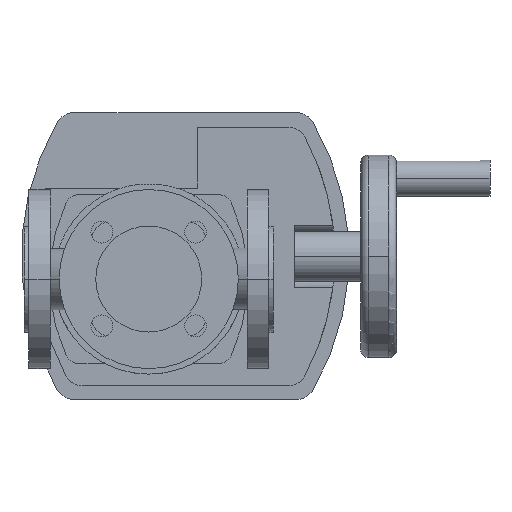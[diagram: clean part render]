
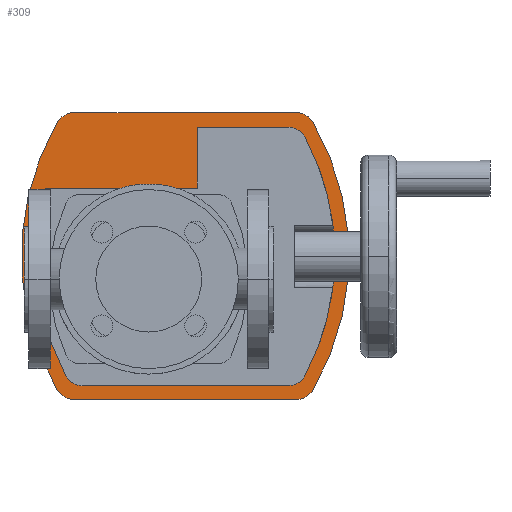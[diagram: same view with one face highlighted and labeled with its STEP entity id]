
A CAD part, front view. The second image highlights one B-rep face of the part: STEP entity #309.
In plain terms, the highlighted planar face has unit normal (0, -1, 0).
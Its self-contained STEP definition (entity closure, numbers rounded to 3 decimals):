
#309 = ADVANCED_FACE( '', ( #782, #783 ), #784, .F. );
#782 = FACE_OUTER_BOUND( '', #1310, .T. );
#783 = FACE_BOUND( '', #1311, .T. );
#784 = PLANE( '', #1312 );
#1310 = EDGE_LOOP( '', ( #2905, #2906, #2907, #2908, #2909, #2910, #2911, #2912 ) );
#1311 = EDGE_LOOP( '', ( #2913, #2914, #2915, #2916, #2917, #2918, #2919, #2920, #2921 ) );
#1312 = AXIS2_PLACEMENT_3D( '', #2922, #2923, #2924 );
#2905 = ORIENTED_EDGE( '', *, *, #3801, .F. );
#2906 = ORIENTED_EDGE( '', *, *, #3802, .F. );
#2907 = ORIENTED_EDGE( '', *, *, #3803, .F. );
#2908 = ORIENTED_EDGE( '', *, *, #3804, .F. );
#2909 = ORIENTED_EDGE( '', *, *, #3805, .F. );
#2910 = ORIENTED_EDGE( '', *, *, #3806, .F. );
#2911 = ORIENTED_EDGE( '', *, *, #3807, .F. );
#2912 = ORIENTED_EDGE( '', *, *, #3808, .F. );
#2913 = ORIENTED_EDGE( '', *, *, #3809, .T. );
#2914 = ORIENTED_EDGE( '', *, *, #3810, .T. );
#2915 = ORIENTED_EDGE( '', *, *, #3811, .F. );
#2916 = ORIENTED_EDGE( '', *, *, #3812, .F. );
#2917 = ORIENTED_EDGE( '', *, *, #3813, .F. );
#2918 = ORIENTED_EDGE( '', *, *, #3814, .F. );
#2919 = ORIENTED_EDGE( '', *, *, #3815, .F. );
#2920 = ORIENTED_EDGE( '', *, *, #3816, .F. );
#2921 = ORIENTED_EDGE( '', *, *, #3817, .F. );
#2922 = CARTESIAN_POINT( '', ( 80., 488.5, 0. ) );
#2923 = DIRECTION( '', ( 0., 1., 0. ) );
#2924 = DIRECTION( '', ( 0., 0., 1. ) );
#3801 = EDGE_CURVE( '', #4725, #4726, #4727, .T. );
#3802 = EDGE_CURVE( '', #4728, #4725, #4729, .T. );
#3803 = EDGE_CURVE( '', #4730, #4728, #4731, .T. );
#3804 = EDGE_CURVE( '', #4732, #4730, #4733, .T. );
#3805 = EDGE_CURVE( '', #4734, #4732, #4735, .T. );
#3806 = EDGE_CURVE( '', #4736, #4734, #4737, .T. );
#3807 = EDGE_CURVE( '', #4738, #4736, #4739, .T. );
#3808 = EDGE_CURVE( '', #4726, #4738, #4740, .T. );
#3809 = EDGE_CURVE( '', #4741, #4742, #4743, .T. );
#3810 = EDGE_CURVE( '', #4742, #4744, #4745, .T. );
#3811 = EDGE_CURVE( '', #4746, #4744, #4747, .T. );
#3812 = EDGE_CURVE( '', #4748, #4746, #4749, .T. );
#3813 = EDGE_CURVE( '', #4750, #4748, #4751, .T. );
#3814 = EDGE_CURVE( '', #4752, #4750, #4753, .T. );
#3815 = EDGE_CURVE( '', #4754, #4752, #4755, .T. );
#3816 = EDGE_CURVE( '', #4756, #4754, #4757, .T. );
#3817 = EDGE_CURVE( '', #4741, #4756, #4758, .T. );
#4725 = VERTEX_POINT( '', #6178 );
#4726 = VERTEX_POINT( '', #6179 );
#4727 = CIRCLE( '', #6180, 170.6 );
#4728 = VERTEX_POINT( '', #6181 );
#4729 = CIRCLE( '', #6182, 12. );
#4730 = VERTEX_POINT( '', #6183 );
#4731 = LINE( '', #6184, #6185 );
#4732 = VERTEX_POINT( '', #6186 );
#4733 = CIRCLE( '', #6187, 12. );
#4734 = VERTEX_POINT( '', #6188 );
#4735 = CIRCLE( '', #6189, 170.6 );
#4736 = VERTEX_POINT( '', #6190 );
#4737 = CIRCLE( '', #6191, 12. );
#4738 = VERTEX_POINT( '', #6192 );
#4739 = LINE( '', #6193, #6194 );
#4740 = CIRCLE( '', #6195, 12. );
#4741 = VERTEX_POINT( '', #6196 );
#4742 = VERTEX_POINT( '', #6197 );
#4743 = LINE( '', #6198, #6199 );
#4744 = VERTEX_POINT( '', #6200 );
#4745 = LINE( '', #6201, #6202 );
#4746 = VERTEX_POINT( '', #6203 );
#4747 = LINE( '', #6204, #6205 );
#4748 = VERTEX_POINT( '', #6206 );
#4749 = CIRCLE( '', #6207, 12. );
#4750 = VERTEX_POINT( '', #6208 );
#4751 = CIRCLE( '', #6209, 163. );
#4752 = VERTEX_POINT( '', #6210 );
#4753 = CIRCLE( '', #6211, 12. );
#4754 = VERTEX_POINT( '', #6212 );
#4755 = LINE( '', #6213, #6214 );
#4756 = VERTEX_POINT( '', #6215 );
#4757 = CIRCLE( '', #6216, 12. );
#4758 = CIRCLE( '', #6217, 163. );
#6178 = CARTESIAN_POINT( '', ( 21.368, 488.5, -71.238 ) );
#6179 = CARTESIAN_POINT( '', ( 21.619, 488.5, 100.868 ) );
#6180 = AXIS2_PLACEMENT_3D( '', #7416, #7417, #7418 );
#6181 = CARTESIAN_POINT( '', ( 31.738, 488.5, -77.2 ) );
#6182 = AXIS2_PLACEMENT_3D( '', #7419, #7420, #7421 );
#6183 = CARTESIAN_POINT( '', ( 175.062, 488.5, -77.2 ) );
#6184 = CARTESIAN_POINT( '', ( 175.062, 488.5, -77.2 ) );
#6185 = VECTOR( '', #7422, 1. );
#6186 = CARTESIAN_POINT( '', ( 185.432, 488.5, -71.238 ) );
#6187 = AXIS2_PLACEMENT_3D( '', #7423, #7424, #7425 );
#6188 = CARTESIAN_POINT( '', ( 185.181, 488.5, 100.868 ) );
#6189 = AXIS2_PLACEMENT_3D( '', #7426, #7427, #7428 );
#6190 = CARTESIAN_POINT( '', ( 174.828, 488.5, 106.8 ) );
#6191 = AXIS2_PLACEMENT_3D( '', #7429, #7430, #7431 );
#6192 = CARTESIAN_POINT( '', ( 31.972, 488.5, 106.8 ) );
#6193 = CARTESIAN_POINT( '', ( 31.972, 488.5, 106.8 ) );
#6194 = VECTOR( '', #7432, 1. );
#6195 = AXIS2_PLACEMENT_3D( '', #7433, #7434, #7435 );
#6196 = CARTESIAN_POINT( '', ( 13.595, 488.5, 58.4 ) );
#6197 = CARTESIAN_POINT( '', ( 111.1, 488.5, 58.4 ) );
#6198 = CARTESIAN_POINT( '', ( 43.3, 488.5, 58.4 ) );
#6199 = VECTOR( '', #7436, 1. );
#6200 = CARTESIAN_POINT( '', ( 111.1, 488.5, 97.4 ) );
#6201 = CARTESIAN_POINT( '', ( 111.1, 488.5, 29.2 ) );
#6202 = VECTOR( '', #7437, 1. );
#6203 = CARTESIAN_POINT( '', ( 169.773, 488.5, 97.4 ) );
#6204 = CARTESIAN_POINT( '', ( 37.227, 488.5, 97.4 ) );
#6205 = VECTOR( '', #7438, 1. );
#6206 = CARTESIAN_POINT( '', ( 180.372, 488.5, 91.026 ) );
#6207 = AXIS2_PLACEMENT_3D( '', #7439, #7440, #7441 );
#6208 = CARTESIAN_POINT( '', ( 180.257, 488.5, -62.042 ) );
#6209 = AXIS2_PLACEMENT_3D( '', #7442, #7443, #7444 );
#6210 = CARTESIAN_POINT( '', ( 169.667, 488.5, -68.4 ) );
#6211 = AXIS2_PLACEMENT_3D( '', #7445, #7446, #7447 );
#6212 = CARTESIAN_POINT( '', ( 37.333, 488.5, -68.4 ) );
#6213 = CARTESIAN_POINT( '', ( 169.667, 488.5, -68.4 ) );
#6214 = VECTOR( '', #7448, 1. );
#6215 = CARTESIAN_POINT( '', ( 26.743, 488.5, -62.042 ) );
#6216 = AXIS2_PLACEMENT_3D( '', #7449, #7450, #7451 );
#6217 = AXIS2_PLACEMENT_3D( '', #7452, #7453, #7454 );
#7416 = CARTESIAN_POINT( '', ( 168.8, 488.5, 14.6 ) );
#7417 = DIRECTION( '', ( 0., 1., 0. ) );
#7418 = DIRECTION( '', ( -0.864, 0., -0.503 ) );
#7419 = CARTESIAN_POINT( '', ( 31.738, 488.5, -65.2 ) );
#7420 = DIRECTION( '', ( 0., 1., 0. ) );
#7421 = DIRECTION( '', ( 0., 0., -1. ) );
#7422 = DIRECTION( '', ( -1., 0., 0. ) );
#7423 = CARTESIAN_POINT( '', ( 175.062, 488.5, -65.2 ) );
#7424 = DIRECTION( '', ( 0., 1., 0. ) );
#7425 = DIRECTION( '', ( 0.864, 0., -0.503 ) );
#7426 = CARTESIAN_POINT( '', ( 38., 488.5, 14.6 ) );
#7427 = DIRECTION( '', ( 0., 1., 0. ) );
#7428 = DIRECTION( '', ( 0.863, 0., 0.506 ) );
#7429 = CARTESIAN_POINT( '', ( 174.828, 488.5, 94.8 ) );
#7430 = DIRECTION( '', ( 0., 1., 0. ) );
#7431 = DIRECTION( '', ( 0., 0., 1. ) );
#7432 = DIRECTION( '', ( 1., 0., 0. ) );
#7433 = CARTESIAN_POINT( '', ( 31.972, 488.5, 94.8 ) );
#7434 = DIRECTION( '', ( 0., 1., 0. ) );
#7435 = DIRECTION( '', ( -0.863, 0., 0.506 ) );
#7436 = DIRECTION( '', ( 1., 0., 0. ) );
#7437 = DIRECTION( '', ( 0., 0., 1. ) );
#7438 = DIRECTION( '', ( -1., 0., 0. ) );
#7439 = CARTESIAN_POINT( '', ( 169.773, 488.5, 85.4 ) );
#7440 = DIRECTION( '', ( 0., -1., 0. ) );
#7441 = DIRECTION( '', ( 0., 0., 1. ) );
#7442 = CARTESIAN_POINT( '', ( 36.4, 488.5, 14.6 ) );
#7443 = DIRECTION( '', ( 0., -1., 0. ) );
#7444 = DIRECTION( '', ( 0.883, 0., 0.469 ) );
#7445 = CARTESIAN_POINT( '', ( 169.667, 488.5, -56.4 ) );
#7446 = DIRECTION( '', ( 0., -1., 0. ) );
#7447 = DIRECTION( '', ( 0.883, 0., -0.47 ) );
#7448 = DIRECTION( '', ( 1., 0., 0. ) );
#7449 = CARTESIAN_POINT( '', ( 37.333, 488.5, -56.4 ) );
#7450 = DIRECTION( '', ( 0., -1., 0. ) );
#7451 = DIRECTION( '', ( 0., 0., -1. ) );
#7452 = CARTESIAN_POINT( '', ( 170.6, 488.5, 14.6 ) );
#7453 = DIRECTION( '', ( 0., -1., 0. ) );
#7454 = DIRECTION( '', ( -0.883, 0., -0.47 ) );
